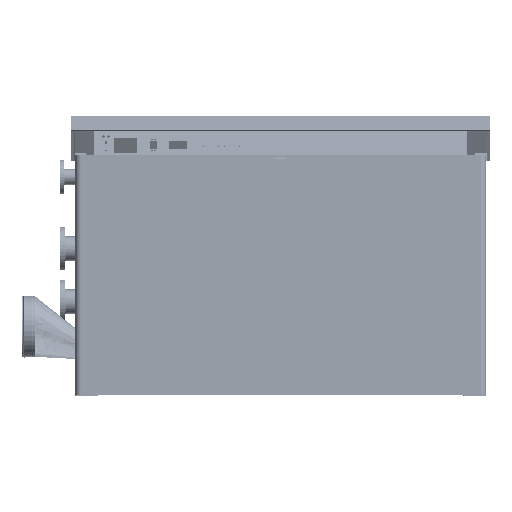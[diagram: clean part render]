
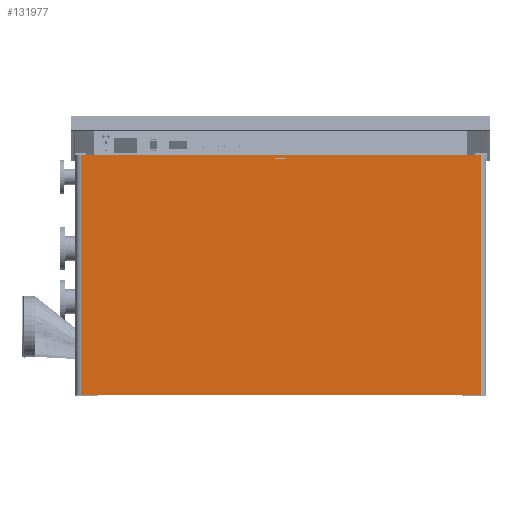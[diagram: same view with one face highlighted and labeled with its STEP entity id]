
A CAD part, front view. The second image highlights one B-rep face of the part: STEP entity #131977.
In plain terms, the highlighted planar face has unit normal (0, -1, 0).
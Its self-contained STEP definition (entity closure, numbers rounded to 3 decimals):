
#9817=LINE('',#221325,#18963);
#9879=LINE('',#221499,#19025);
#9887=LINE('',#221518,#19033);
#9893=LINE('',#221529,#19039);
#9894=LINE('',#221531,#19040);
#9895=LINE('',#221536,#19041);
#9896=LINE('',#221539,#19042);
#9897=LINE('',#221540,#19043);
#9898=LINE('',#221541,#19044);
#9899=LINE('',#221542,#19045);
#18963=VECTOR('',#173174,1000.);
#19025=VECTOR('',#173318,1000.);
#19033=VECTOR('',#173334,1000.);
#19039=VECTOR('',#173342,1000.);
#19040=VECTOR('',#173345,1000.);
#19041=VECTOR('',#173348,1000.);
#19042=VECTOR('',#173351,1000.);
#19043=VECTOR('',#173352,1000.);
#19044=VECTOR('',#173353,1000.);
#19045=VECTOR('',#173354,1000.);
#25530=PLANE('',#144829);
#46568=ORIENTED_EDGE('',*,*,#72784,.F.);
#46569=ORIENTED_EDGE('',*,*,#72785,.F.);
#46570=ORIENTED_EDGE('',*,*,#72786,.F.);
#46571=ORIENTED_EDGE('',*,*,#72787,.F.);
#46572=ORIENTED_EDGE('',*,*,#72783,.F.);
#46573=ORIENTED_EDGE('',*,*,#72680,.T.);
#46574=ORIENTED_EDGE('',*,*,#72788,.F.);
#46575=ORIENTED_EDGE('',*,*,#72789,.T.);
#46576=ORIENTED_EDGE('',*,*,#72790,.F.);
#46577=ORIENTED_EDGE('',*,*,#72767,.T.);
#46578=ORIENTED_EDGE('',*,*,#72777,.F.);
#46579=ORIENTED_EDGE('',*,*,#72791,.T.);
#72680=EDGE_CURVE('',#87459,#87458,#9817,.T.);
#72767=EDGE_CURVE('',#87530,#87531,#9879,.T.);
#72777=EDGE_CURVE('',#87536,#87531,#9887,.T.);
#72783=EDGE_CURVE('',#87459,#87539,#9893,.T.);
#72784=EDGE_CURVE('',#87541,#87542,#9894,.T.);
#72785=EDGE_CURVE('',#87543,#87541,#97387,.T.);
#72786=EDGE_CURVE('',#87544,#87543,#9895,.T.);
#72787=EDGE_CURVE('',#87542,#87544,#97388,.T.);
#72788=EDGE_CURVE('',#87518,#87458,#9896,.T.);
#72789=EDGE_CURVE('',#87518,#87529,#9897,.T.);
#72790=EDGE_CURVE('',#87530,#87529,#9898,.T.);
#72791=EDGE_CURVE('',#87536,#87539,#9899,.T.);
#87458=VERTEX_POINT('',#221324);
#87459=VERTEX_POINT('',#221326);
#87518=VERTEX_POINT('',#221470);
#87529=VERTEX_POINT('',#221493);
#87530=VERTEX_POINT('',#221500);
#87531=VERTEX_POINT('',#221501);
#87536=VERTEX_POINT('',#221517);
#87539=VERTEX_POINT('',#221525);
#87541=VERTEX_POINT('',#221532);
#87542=VERTEX_POINT('',#221533);
#87543=VERTEX_POINT('',#221535);
#87544=VERTEX_POINT('',#221537);
#97387=CIRCLE('',#144830,3.);
#97388=CIRCLE('',#144831,3.);
#106095=EDGE_LOOP('',(#46568,#46569,#46570,#46571));
#106096=EDGE_LOOP('',(#46572,#46573,#46574,#46575,#46576,#46577,#46578,
#46579));
#115749=FACE_BOUND('',#106095,.T.);
#115750=FACE_BOUND('',#106096,.T.);
#131977=ADVANCED_FACE('',(#115749,#115750),#25530,.T.);
#144829=AXIS2_PLACEMENT_3D('',#221530,#173343,#173344);
#144830=AXIS2_PLACEMENT_3D('',#221534,#173346,#173347);
#144831=AXIS2_PLACEMENT_3D('',#221538,#173349,#173350);
#173174=DIRECTION('',(0.,0.,-1.));
#173318=DIRECTION('',(0.,0.,1.));
#173334=DIRECTION('',(1.,0.,0.));
#173342=DIRECTION('',(1.,0.,0.));
#173343=DIRECTION('',(0.,-1.,0.));
#173344=DIRECTION('',(0.,0.,-1.));
#173345=DIRECTION('',(1.,0.,0.));
#173346=DIRECTION('',(0.,-1.,0.));
#173347=DIRECTION('',(1.,0.,0.));
#173348=DIRECTION('',(-1.,0.,0.));
#173349=DIRECTION('',(0.,-1.,0.));
#173350=DIRECTION('',(-1.,0.,0.));
#173351=DIRECTION('',(-1.,0.,0.));
#173352=DIRECTION('',(1.,0.,0.));
#173353=DIRECTION('',(-1.,0.,0.));
#173354=DIRECTION('',(-1.,0.,0.));
#221324=CARTESIAN_POINT('',(-1158.5,0.,-692.998));
#221325=CARTESIAN_POINT('',(-1158.5,0.,694.));
#221326=CARTESIAN_POINT('',(-1158.5,0.,692.998));
#221470=CARTESIAN_POINT('',(-1158.498,0.,-692.998));
#221493=CARTESIAN_POINT('',(1158.498,0.,-692.998));
#221499=CARTESIAN_POINT('',(1158.5,0.,-694.));
#221500=CARTESIAN_POINT('',(1158.5,0.,-692.998));
#221501=CARTESIAN_POINT('',(1158.5,0.,692.998));
#221517=CARTESIAN_POINT('',(1158.498,0.,692.998));
#221518=CARTESIAN_POINT('',(1158.5,0.,692.998));
#221525=CARTESIAN_POINT('',(-1158.498,0.,692.998));
#221529=CARTESIAN_POINT('',(1158.5,0.,692.998));
#221530=CARTESIAN_POINT('',(-1189.5,0.,-694.));
#221531=CARTESIAN_POINT('',(28.,0.,671.));
#221532=CARTESIAN_POINT('',(-28.,0.,671.));
#221533=CARTESIAN_POINT('',(28.,0.,671.));
#221534=CARTESIAN_POINT('',(-28.,0.,674.));
#221535=CARTESIAN_POINT('',(-28.,0.,677.));
#221536=CARTESIAN_POINT('',(-28.,0.,677.));
#221537=CARTESIAN_POINT('',(28.,0.,677.));
#221538=CARTESIAN_POINT('',(28.,0.,674.));
#221539=CARTESIAN_POINT('',(-1158.5,0.,-692.998));
#221540=CARTESIAN_POINT('',(-1158.498,0.,-692.998));
#221541=CARTESIAN_POINT('',(-1158.5,0.,-692.998));
#221542=CARTESIAN_POINT('',(1158.498,0.,692.998));
